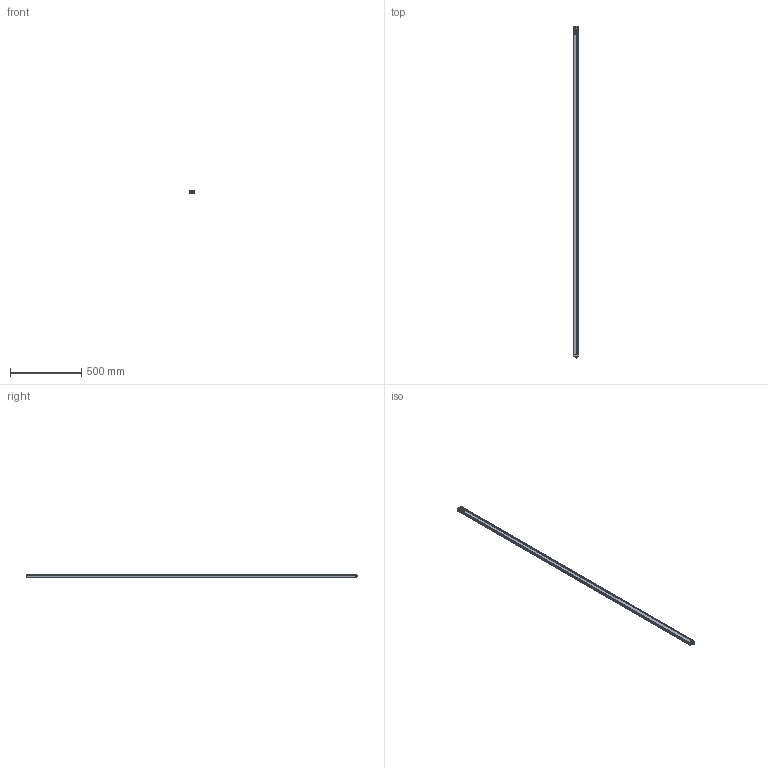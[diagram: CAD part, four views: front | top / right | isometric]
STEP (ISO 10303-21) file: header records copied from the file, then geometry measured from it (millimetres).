
FILE_DESCRIPTION(/* description */ (''),/* implementation_level */ '2;1');
FILE_NAME(/* name */ 'C:\Users\andre\SynologyDrive\Optoscan\Libreria Componenti\00 - Barriere\Polaris sorgente\Barriera Polaris RX\Polaris_2300_RX.stp',/* time_stamp */ '2021-06-04T12:10:38+02:00',/* author */ ('andre'),/* organization */ (''),/* preprocessor_version */ 'ST-DEVELOPER v18',/* originating_system */ 'Autodesk Inventor 2020',/* authorisation */ '');
FILE_SCHEMA (('AUTOMOTIVE_DESIGN { 1 0 10303 214 3 1 1 }'));
Length unit declared in the file: millimetre
Products named in the file (1): Polaris_2300_RX
Bounding box: 40.5 x 2337.3 x 20.75 mm (x, y, z)
Volume: 459666.6 mm3; surface area: 610806.2 mm2
Topology: 1 solids, 1 shells, 700 faces, 1926 edges, 1237 vertices
Faces by surface type: plane 319, cylinder 199, bspline 94, torus 70, sphere 10, cone 8
Full cylindrical faces by diameter (mm): 1 x8, 2.459 x4, 2.5 x4, 3 x4, 3.5 x4, 5.5 x4, 8 x1, 10.5 x2, 11.75 x9, 15.7 x1, 17.5 x1
Entity records: 28472 total; most frequent: CARTESIAN_POINT 10246, ORIENTED_EDGE 3826, DIRECTION 3447, EDGE_CURVE 1913, VERTEX_POINT 1237, AXIS2_PLACEMENT_3D 1211, LINE 1025, VECTOR 1025
